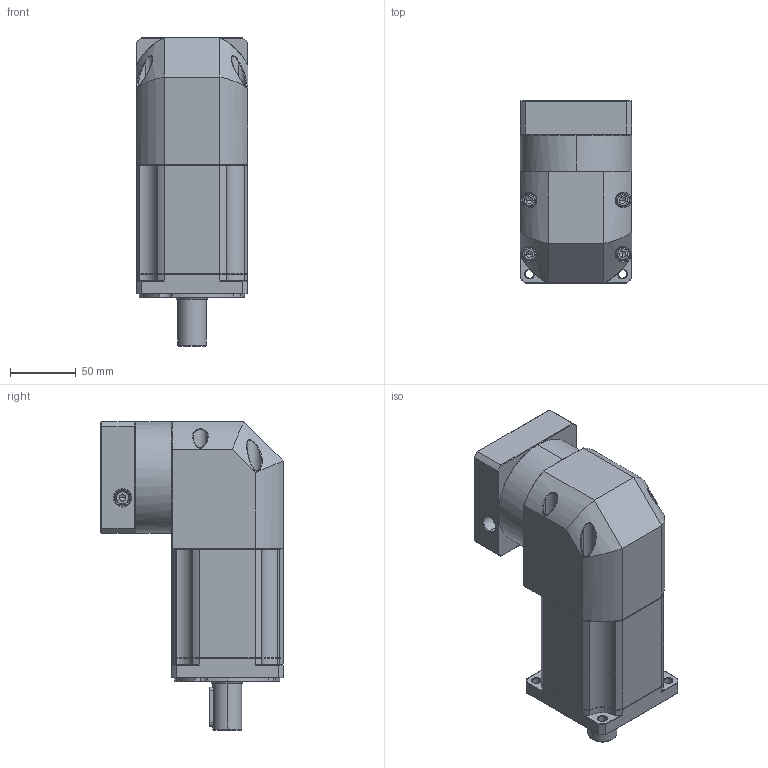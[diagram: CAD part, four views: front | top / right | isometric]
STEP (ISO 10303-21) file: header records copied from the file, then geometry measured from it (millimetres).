
FILE_DESCRIPTION (( 'STEP AP214' ), '1' );
FILE_NAME ('ZBR090-D22-L3-P2-19-80-100-M6.step', '2023-08-19T02:08:23', ( '' ), ( '' ), 'SwSTEP 2.0', 'SolidWorks 2016', '' );
FILE_SCHEMA (( 'AUTOMOTIVE_DESIGN' ));
Length unit declared in the file: millimetre
Products named in the file (1): ZBR090-D22-L3-P2-19-80-100-M6
Bounding box: 85 x 138.6 x 235 mm (x, y, z)
Volume: 1495812 mm3; surface area: 145373.2 mm2
Topology: 5 solids, 5 shells, 2407 faces, 6285 edges, 3972 vertices
Faces by surface type: plane 1155, cylinder 449, bspline 421, cone 356, torus 26
Entity records: 129602 total; most frequent: CARTESIAN_POINT 47659, ORIENTED_EDGE 12494, DIRECTION 9948, EDGE_CURVE 6247, VERTEX_POINT 3972, LINE 3960, VECTOR 3960, AXIS2_PLACEMENT_3D 2994
